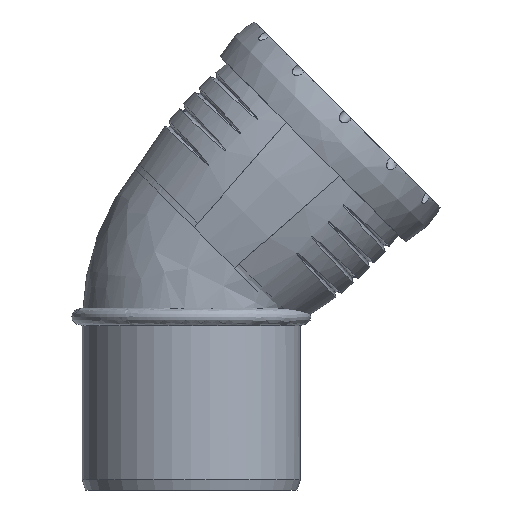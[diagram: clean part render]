
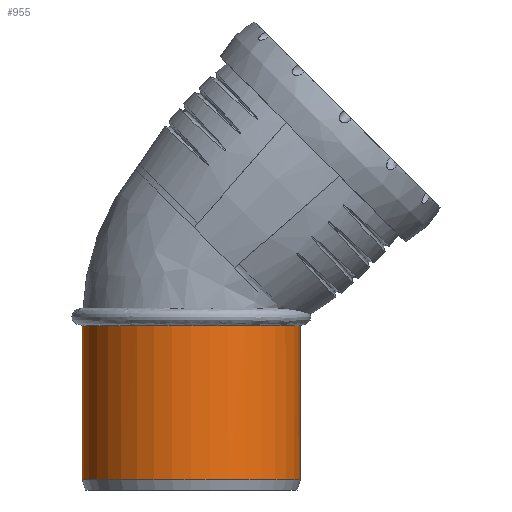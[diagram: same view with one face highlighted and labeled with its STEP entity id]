
A CAD part, front view. The second image highlights one B-rep face of the part: STEP entity #955.
In plain terms, the highlighted cylindrical face has radius 37.6 mm (diameter 75.2 mm), a full revolution.
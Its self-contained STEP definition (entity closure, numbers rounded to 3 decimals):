
#51=CYLINDRICAL_SURFACE('',#1043,37.6);
#101=FACE_BOUND('',#227,.T.);
#152=FACE_OUTER_BOUND('',#226,.T.);
#226=EDGE_LOOP('',(#810,#811,#812,#813));
#227=EDGE_LOOP('',(#814));
#267=CIRCLE('',#1038,37.6);
#270=CIRCLE('',#1044,37.6);
#271=CIRCLE('',#1045,37.6);
#272=CIRCLE('',#1046,37.6);
#273=CIRCLE('',#1047,37.6);
#436=VERTEX_POINT('',#4198);
#437=VERTEX_POINT('',#4231);
#439=VERTEX_POINT('',#4271);
#440=VERTEX_POINT('',#4273);
#441=VERTEX_POINT('',#4276);
#564=EDGE_CURVE('',#436,#437,#267,.T.);
#567=EDGE_CURVE('',#439,#436,#270,.T.);
#568=EDGE_CURVE('',#437,#440,#271,.T.);
#569=EDGE_CURVE('',#440,#439,#272,.T.);
#570=EDGE_CURVE('',#441,#441,#273,.T.);
#810=ORIENTED_EDGE('',*,*,#567,.T.);
#811=ORIENTED_EDGE('',*,*,#564,.T.);
#812=ORIENTED_EDGE('',*,*,#568,.T.);
#813=ORIENTED_EDGE('',*,*,#569,.T.);
#814=ORIENTED_EDGE('',*,*,#570,.F.);
#955=ADVANCED_FACE('',(#152,#101),#51,.T.);
#1038=AXIS2_PLACEMENT_3D('',#4264,#1202,#1203);
#1043=AXIS2_PLACEMENT_3D('',#4270,#1212,#1213);
#1044=AXIS2_PLACEMENT_3D('',#4272,#1214,#1215);
#1045=AXIS2_PLACEMENT_3D('',#4274,#1216,#1217);
#1046=AXIS2_PLACEMENT_3D('',#4275,#1218,#1219);
#1047=AXIS2_PLACEMENT_3D('',#4277,#1220,#1221);
#1202=DIRECTION('center_axis',(0.,0.,-1.));
#1203=DIRECTION('ref_axis',(1.,0.,0.));
#1212=DIRECTION('center_axis',(0.,0.,-1.));
#1213=DIRECTION('ref_axis',(0.,1.,0.));
#1214=DIRECTION('center_axis',(0.,0.,-1.));
#1215=DIRECTION('ref_axis',(1.,0.,0.));
#1216=DIRECTION('center_axis',(0.,0.,-1.));
#1217=DIRECTION('ref_axis',(1.,0.,0.));
#1218=DIRECTION('center_axis',(0.,0.,-1.));
#1219=DIRECTION('ref_axis',(1.,0.,0.));
#1220=DIRECTION('center_axis',(0.,0.,-1.));
#1221=DIRECTION('ref_axis',(1.,0.,0.));
#4198=CARTESIAN_POINT('',(35.255,13.072,56.7));
#4231=CARTESIAN_POINT('',(35.255,-13.072,56.7));
#4264=CARTESIAN_POINT('Origin',(0.,0.,56.7));
#4270=CARTESIAN_POINT('Origin',(0.,0.,30.1));
#4271=CARTESIAN_POINT('',(0.,37.6,56.7));
#4272=CARTESIAN_POINT('Origin',(0.,0.,56.7));
#4273=CARTESIAN_POINT('',(-37.6,0.,56.7));
#4274=CARTESIAN_POINT('Origin',(0.,0.,56.7));
#4275=CARTESIAN_POINT('Origin',(0.,0.,56.7));
#4276=CARTESIAN_POINT('',(0.,37.6,3.5));
#4277=CARTESIAN_POINT('Origin',(0.,0.,3.5));
